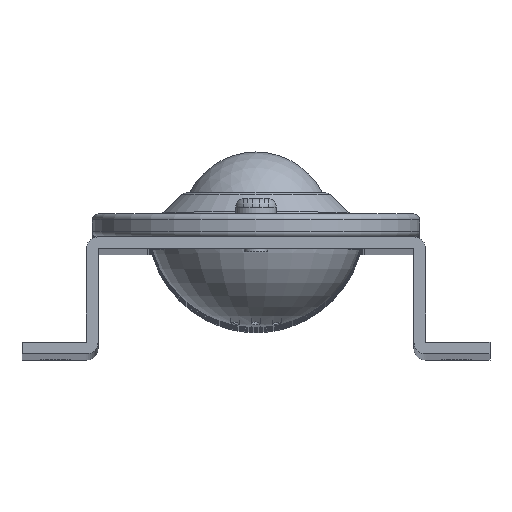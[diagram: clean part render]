
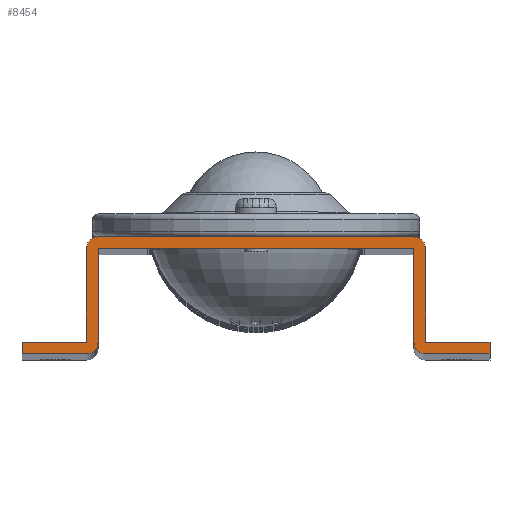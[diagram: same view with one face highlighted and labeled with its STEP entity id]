
A CAD part, top view. The second image highlights one B-rep face of the part: STEP entity #8454.
In plain terms, the highlighted planar face has unit normal (0, 0, 1).
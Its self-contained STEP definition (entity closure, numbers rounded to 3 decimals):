
#50 = VECTOR ( 'NONE', #17335, 1000. ) ;
#84 = AXIS2_PLACEMENT_3D ( 'NONE', #20271, #10398, #578 ) ;
#91 = EDGE_CURVE ( 'NONE', #12023, #6393, #4296, .T. ) ;
#178 = EDGE_CURVE ( 'NONE', #6186, #3157, #2762, .T. ) ;
#191 = CARTESIAN_POINT ( 'NONE',  ( 29., 2., 0. ) ) ;
#369 = CARTESIAN_POINT ( 'NONE',  ( 29., 18., 0. ) ) ;
#404 = EDGE_CURVE ( 'NONE', #3157, #8924, #19972, .T. ) ;
#578 = DIRECTION ( 'NONE',  ( -1., 0., 0. ) ) ;
#663 = CARTESIAN_POINT ( 'NONE',  ( 27., 18., 0. ) ) ;
#884 = CARTESIAN_POINT ( 'NONE',  ( -29., 2., 0. ) ) ;
#1135 = DIRECTION ( 'NONE',  ( -1., 0., 0. ) ) ;
#1222 = CARTESIAN_POINT ( 'NONE',  ( 27., 18., 0. ) ) ;
#1814 = DIRECTION ( 'NONE',  ( -1., 0., 0. ) ) ;
#1827 = CARTESIAN_POINT ( 'NONE',  ( 40., 0., 0. ) ) ;
#1869 = LINE ( 'NONE', #4485, #5730 ) ;
#1933 = VERTEX_POINT ( 'NONE', #13130 ) ;
#1940 = ORIENTED_EDGE ( 'NONE', *, *, #20295, .T. ) ;
#2169 = CIRCLE ( 'NONE', #3006, 2. ) ;
#2309 = DIRECTION ( 'NONE',  ( -1., 0., 0. ) ) ;
#2321 = DIRECTION ( 'NONE',  ( 0., 0., 1. ) ) ;
#2367 = EDGE_CURVE ( 'NONE', #9302, #8958, #6890, .T. ) ;
#2491 = VECTOR ( 'NONE', #1135, 1000. ) ;
#2762 = LINE ( 'NONE', #884, #7142 ) ;
#2876 = VERTEX_POINT ( 'NONE', #21006 ) ;
#3006 = AXIS2_PLACEMENT_3D ( 'NONE', #12162, #2321, #13823 ) ;
#3009 = CARTESIAN_POINT ( 'NONE',  ( -40., 0., 0. ) ) ;
#3080 = DIRECTION ( 'NONE',  ( 0., -1., 0. ) ) ;
#3157 = VERTEX_POINT ( 'NONE', #17032 ) ;
#3182 = CARTESIAN_POINT ( 'NONE',  ( -27., 0., 0. ) ) ;
#3419 = CARTESIAN_POINT ( 'NONE',  ( -27., 20., 0. ) ) ;
#3567 = PLANE ( 'NONE',  #16090 ) ;
#4296 = LINE ( 'NONE', #18063, #21279 ) ;
#4398 = LINE ( 'NONE', #15697, #50 ) ;
#4485 = CARTESIAN_POINT ( 'NONE',  ( -27., 18., 0. ) ) ;
#4731 = CIRCLE ( 'NONE', #7831, 2. ) ;
#4966 = ORIENTED_EDGE ( 'NONE', *, *, #178, .T. ) ;
#4986 = EDGE_CURVE ( 'NONE', #8395, #6186, #8103, .T. ) ;
#5055 = LINE ( 'NONE', #11345, #8933 ) ;
#5086 = VERTEX_POINT ( 'NONE', #20564 ) ;
#5346 = CARTESIAN_POINT ( 'NONE',  ( 40., 2., 0. ) ) ;
#5559 = ORIENTED_EDGE ( 'NONE', *, *, #8283, .T. ) ;
#5673 = LINE ( 'NONE', #11823, #9524 ) ;
#5730 = VECTOR ( 'NONE', #17646, 1000. ) ;
#6186 = VERTEX_POINT ( 'NONE', #14584 ) ;
#6199 = EDGE_CURVE ( 'NONE', #5086, #1933, #5055, .T. ) ;
#6207 = VECTOR ( 'NONE', #10308, 1000. ) ;
#6393 = VERTEX_POINT ( 'NONE', #16873 ) ;
#6588 = CARTESIAN_POINT ( 'NONE',  ( -40., 2., 0. ) ) ;
#6710 = VERTEX_POINT ( 'NONE', #14631 ) ;
#6737 = EDGE_CURVE ( 'NONE', #6710, #2876, #8911, .T. ) ;
#6890 = LINE ( 'NONE', #9572, #9694 ) ;
#7108 = VERTEX_POINT ( 'NONE', #8005 ) ;
#7142 = VECTOR ( 'NONE', #18199, 1000. ) ;
#7191 = ORIENTED_EDGE ( 'NONE', *, *, #16403, .T. ) ;
#7831 = AXIS2_PLACEMENT_3D ( 'NONE', #191, #11646, #1814 ) ;
#8005 = CARTESIAN_POINT ( 'NONE',  ( -27., 18., 0. ) ) ;
#8103 = CIRCLE ( 'NONE', #84, 2. ) ;
#8283 = EDGE_CURVE ( 'NONE', #8924, #6710, #18918, .T. ) ;
#8292 = DIRECTION ( 'NONE',  ( -1., 0., 0. ) ) ;
#8395 = VERTEX_POINT ( 'NONE', #3419 ) ;
#8450 = ORIENTED_EDGE ( 'NONE', *, *, #13287, .T. ) ;
#8454 = ADVANCED_FACE ( 'NONE', ( #11433 ), #3567, .F. ) ;
#8911 = LINE ( 'NONE', #3182, #17650 ) ;
#8924 = VERTEX_POINT ( 'NONE', #6588 ) ;
#8933 = VECTOR ( 'NONE', #3080, 1000. ) ;
#8958 = VERTEX_POINT ( 'NONE', #1827 ) ;
#9302 = VERTEX_POINT ( 'NONE', #12888 ) ;
#9411 = DIRECTION ( 'NONE',  ( 1., 0., 0. ) ) ;
#9509 = LINE ( 'NONE', #1222, #17741 ) ;
#9524 = VECTOR ( 'NONE', #13465, 1000. ) ;
#9572 = CARTESIAN_POINT ( 'NONE',  ( 40., 0., 0. ) ) ;
#9694 = VECTOR ( 'NONE', #14542, 1000. ) ;
#9821 = CARTESIAN_POINT ( 'NONE',  ( -40., 2., 0. ) ) ;
#10161 = VECTOR ( 'NONE', #12866, 1000. ) ;
#10189 = DIRECTION ( 'NONE',  ( -1., 0., 0. ) ) ;
#10230 = CARTESIAN_POINT ( 'NONE',  ( 27., 20., 0. ) ) ;
#10258 = AXIS2_PLACEMENT_3D ( 'NONE', #663, #12150, #2309 ) ;
#10308 = DIRECTION ( 'NONE',  ( 0., 1., 0. ) ) ;
#10398 = DIRECTION ( 'NONE',  ( 0., 0., 1. ) ) ;
#10581 = LINE ( 'NONE', #5346, #6207 ) ;
#11018 = ORIENTED_EDGE ( 'NONE', *, *, #6199, .T. ) ;
#11345 = CARTESIAN_POINT ( 'NONE',  ( 27., 0., 0. ) ) ;
#11433 = FACE_OUTER_BOUND ( 'NONE', #15159, .T. ) ;
#11459 = EDGE_CURVE ( 'NONE', #21108, #7108, #1869, .T. ) ;
#11646 = DIRECTION ( 'NONE',  ( 0., 0., 1. ) ) ;
#11823 = CARTESIAN_POINT ( 'NONE',  ( 29., 20., 0. ) ) ;
#12023 = VERTEX_POINT ( 'NONE', #16181 ) ;
#12150 = DIRECTION ( 'NONE',  ( 0., 0., 1. ) ) ;
#12162 = CARTESIAN_POINT ( 'NONE',  ( -29., 2., 0. ) ) ;
#12296 = ORIENTED_EDGE ( 'NONE', *, *, #2367, .T. ) ;
#12866 = DIRECTION ( 'NONE',  ( 0., -1., 0. ) ) ;
#12888 = CARTESIAN_POINT ( 'NONE',  ( 29., 0., 0. ) ) ;
#13098 = EDGE_CURVE ( 'NONE', #1933, #9302, #4731, .T. ) ;
#13130 = CARTESIAN_POINT ( 'NONE',  ( 27., 2., 0. ) ) ;
#13281 = ORIENTED_EDGE ( 'NONE', *, *, #404, .T. ) ;
#13287 = EDGE_CURVE ( 'NONE', #2876, #21108, #2169, .T. ) ;
#13420 = ORIENTED_EDGE ( 'NONE', *, *, #4986, .T. ) ;
#13465 = DIRECTION ( 'NONE',  ( 0., 1., 0. ) ) ;
#13823 = DIRECTION ( 'NONE',  ( -1., 0., 0. ) ) ;
#14542 = DIRECTION ( 'NONE',  ( 1., 0., 0. ) ) ;
#14584 = CARTESIAN_POINT ( 'NONE',  ( -29., 18., 0. ) ) ;
#14631 = CARTESIAN_POINT ( 'NONE',  ( -40., 0., 0. ) ) ;
#14696 = DIRECTION ( 'NONE',  ( 1., 0., 0. ) ) ;
#15002 = ORIENTED_EDGE ( 'NONE', *, *, #91, .T. ) ;
#15159 = EDGE_LOOP ( 'NONE', ( #11018, #20606, #12296, #19856, #15002, #20288, #1940, #20228, #13420, #4966, #13281, #5559, #20718, #8450, #18520, #7191 ) ) ;
#15697 = CARTESIAN_POINT ( 'NONE',  ( -29., 20., 0. ) ) ;
#15718 = EDGE_CURVE ( 'NONE', #6393, #16672, #5673, .T. ) ;
#15922 = CIRCLE ( 'NONE', #10258, 2. ) ;
#16090 = AXIS2_PLACEMENT_3D ( 'NONE', #16724, #20044, #10189 ) ;
#16181 = CARTESIAN_POINT ( 'NONE',  ( 40., 2., 0. ) ) ;
#16282 = CARTESIAN_POINT ( 'NONE',  ( -27., 2., 0. ) ) ;
#16403 = EDGE_CURVE ( 'NONE', #7108, #5086, #9509, .T. ) ;
#16672 = VERTEX_POINT ( 'NONE', #369 ) ;
#16724 = CARTESIAN_POINT ( 'NONE',  ( 0., 0., 0. ) ) ;
#16873 = CARTESIAN_POINT ( 'NONE',  ( 29., 2., 0. ) ) ;
#17032 = CARTESIAN_POINT ( 'NONE',  ( -29., 2., 0. ) ) ;
#17197 = EDGE_CURVE ( 'NONE', #8958, #12023, #10581, .T. ) ;
#17335 = DIRECTION ( 'NONE',  ( -1., 0., 0. ) ) ;
#17646 = DIRECTION ( 'NONE',  ( 0., 1., 0. ) ) ;
#17650 = VECTOR ( 'NONE', #14696, 1000. ) ;
#17741 = VECTOR ( 'NONE', #9411, 1000. ) ;
#18063 = CARTESIAN_POINT ( 'NONE',  ( 29., 2., 0. ) ) ;
#18199 = DIRECTION ( 'NONE',  ( 0., -1., 0. ) ) ;
#18409 = VERTEX_POINT ( 'NONE', #10230 ) ;
#18520 = ORIENTED_EDGE ( 'NONE', *, *, #11459, .T. ) ;
#18574 = EDGE_CURVE ( 'NONE', #18409, #8395, #4398, .T. ) ;
#18918 = LINE ( 'NONE', #3009, #10161 ) ;
#19856 = ORIENTED_EDGE ( 'NONE', *, *, #17197, .T. ) ;
#19972 = LINE ( 'NONE', #9821, #2491 ) ;
#20044 = DIRECTION ( 'NONE',  ( 0., 0., -1. ) ) ;
#20228 = ORIENTED_EDGE ( 'NONE', *, *, #18574, .T. ) ;
#20271 = CARTESIAN_POINT ( 'NONE',  ( -27., 18., 0. ) ) ;
#20288 = ORIENTED_EDGE ( 'NONE', *, *, #15718, .T. ) ;
#20295 = EDGE_CURVE ( 'NONE', #16672, #18409, #15922, .T. ) ;
#20564 = CARTESIAN_POINT ( 'NONE',  ( 27., 18., 0. ) ) ;
#20606 = ORIENTED_EDGE ( 'NONE', *, *, #13098, .T. ) ;
#20718 = ORIENTED_EDGE ( 'NONE', *, *, #6737, .T. ) ;
#21006 = CARTESIAN_POINT ( 'NONE',  ( -29., 0., 0. ) ) ;
#21108 = VERTEX_POINT ( 'NONE', #16282 ) ;
#21279 = VECTOR ( 'NONE', #8292, 1000. ) ;
